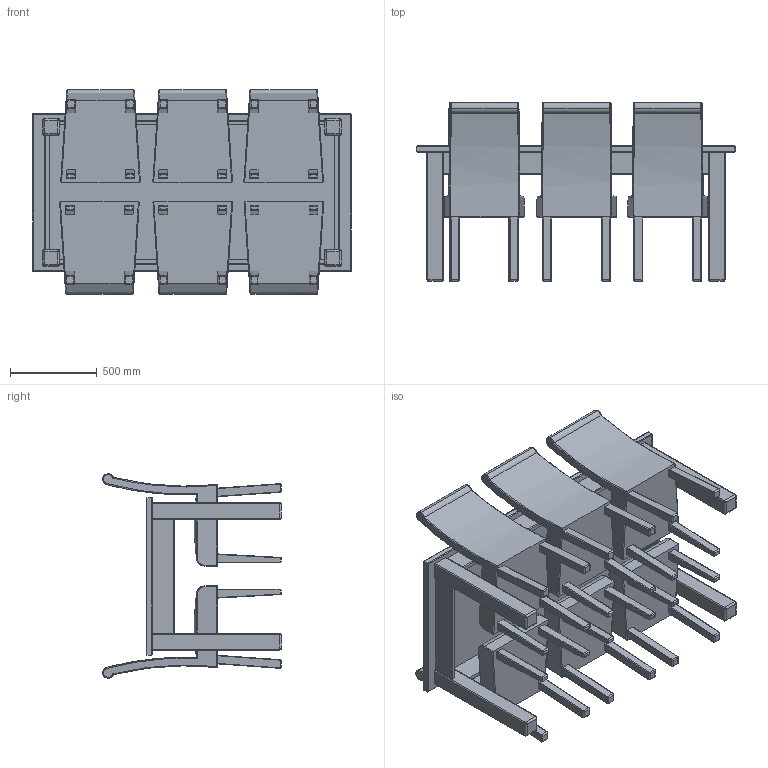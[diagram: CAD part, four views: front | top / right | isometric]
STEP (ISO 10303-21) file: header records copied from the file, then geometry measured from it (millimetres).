
FILE_DESCRIPTION (( 'STEP AP214' ), '1' );
FILE_NAME ('Table and chairs.STEP', '2013-01-14T10:04:36', ( 'Greg Hynd' ), ( '' ), 'SwSTEP 2.0', 'SolidWorks 2013', '' );
FILE_SCHEMA (( 'AUTOMOTIVE_DESIGN' ));
Length unit declared in the file: millimetre
Products named in the file (3): Chair; Table; Table and chairs
Assembly tree (7 placements, depth 2):
  Table and chairs
    Table
    Chair  x6
Bounding box: 1835 x 1030 x 1179.61 mm (x, y, z)
Volume: 334948275 mm3; surface area: 13841408.4 mm2
Topology: 7 solids, 7 shells, 762 faces, 1879 edges, 1042 vertices
Faces by surface type: cylinder 316, bspline 232, plane 188, torus 24, sphere 2
Entity records: 9519 total; most frequent: CARTESIAN_POINT 4026, ORIENTED_EDGE 1040, DIRECTION 827, EDGE_CURVE 520, VERTEX_POINT 307, AXIS2_PLACEMENT_3D 277, LINE 273, VECTOR 273
